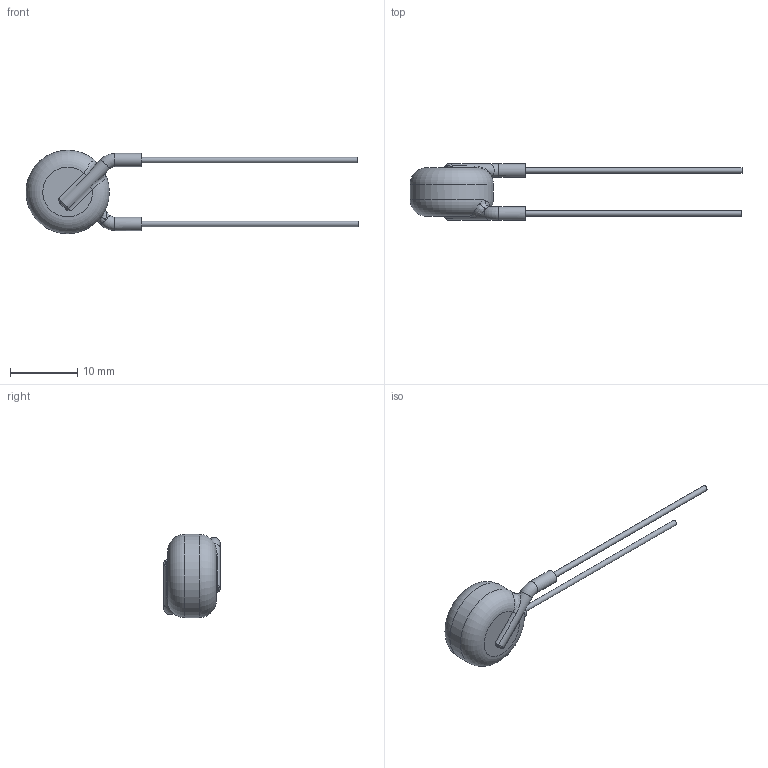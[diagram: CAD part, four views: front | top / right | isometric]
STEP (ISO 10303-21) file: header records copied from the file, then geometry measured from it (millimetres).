
FILE_DESCRIPTION((''),'2;1');
FILE_NAME('I:\Marketing\M6t1\3D-Models\Zchng-Werk-3\Upload for homepage\Ceramite\Y5R-10kV\615R100GAST25\615R100GAST25.stp','2015-08-28T09:39:11',(''),(''),'Autodesk Inventor 2013','Autodesk Inventor 2013','');
FILE_SCHEMA(('AUTOMOTIVE_DESIGN { 1 0 10303 214 1 1 1 1 }'));
Length unit declared in the file: centimetre
Products named in the file (1): 615R100GAST25
Bounding box: 49.4 x 8.38 x 12.4 mm (x, y, z)
Surface area: 691.5 mm2 (no closed solid volume)
Topology: 0 solids, 1 shells, 45 faces, 104 edges, 58 vertices
Faces by surface type: bspline 14, cylinder 13, torus 10, plane 8
Full cylindrical faces by diameter (mm): 0.81 x2, 1.98 x2, 12.4 x1
Entity records: 1628 total; most frequent: CARTESIAN_POINT 713, ORIENTED_EDGE 164, DIRECTION 160, EDGE_CURVE 82, AXIS2_PLACEMENT_3D 74, EDGE_LOOP 56, VERTEX_POINT 50, STYLED_ITEM 46
